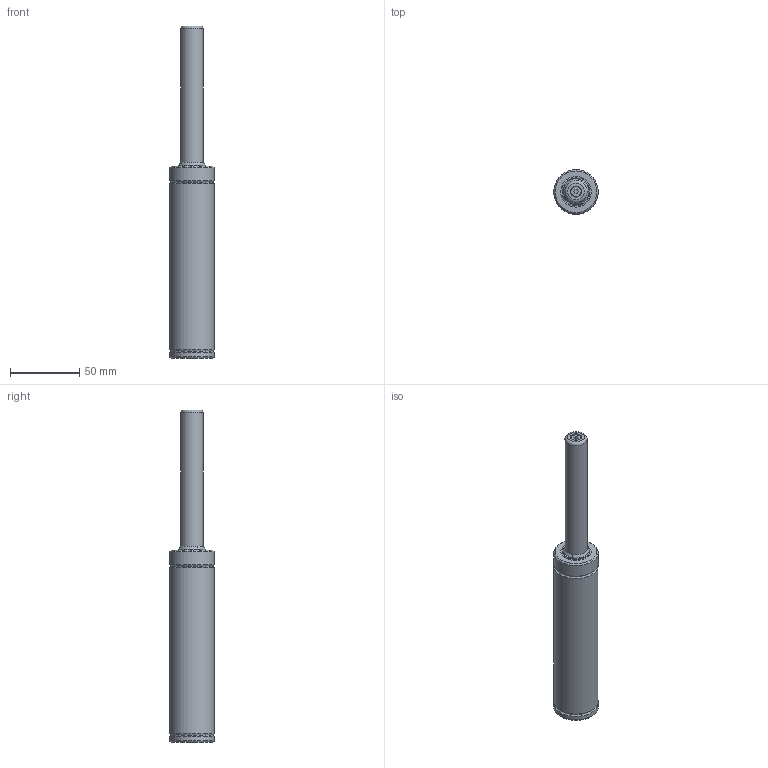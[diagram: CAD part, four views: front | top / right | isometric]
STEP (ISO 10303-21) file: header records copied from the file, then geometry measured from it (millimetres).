
FILE_DESCRIPTION(('FreeCAD Model'),'2;1');
FILE_NAME('Open CASCADE Shape Model','2024-11-13T08:20:19',('Author'),( ''),'Open CASCADE STEP processor 7.6','FreeCAD','Unknown');
FILE_SCHEMA(('AUTOMOTIVE_DESIGN { 1 0 10303 214 1 1 1 1 }'));
Length unit declared in the file: millimetre
Products named in the file (8): Unnamed; Part; C:\Documents and Settings\Luisg\Mis documentos\Dibujos catálogo 
2009\MICRO25x031; C:\Documents and Settings\Luisg\Mis documentos\Dibujos catálogo 
2009\MICRO25x030; Part002; Cut; Part003; Cut001
Assembly tree (7 placements, depth 3):
  Unnamed
    Part
      C:\Documents and Settings\Luisg\Mis documentos\Dibujos catálogo 
2009\MICRO25x031
      C:\Documents and Settings\Luisg\Mis documentos\Dibujos catálogo 
2009\MICRO25x030
    Part002
      Cut
    Part003
      Cut001
Bounding box: 32 x 32 x 239 mm (x, y, z)
Volume: 131276.4 mm3; surface area: 22566.4 mm2
Topology: 4 solids, 4 shells, 51 faces, 100 edges, 63 vertices
Faces by surface type: plane 21, cylinder 17, cone 7, torus 6
Full cylindrical faces by diameter (mm): 8 x1, 16 x1, 32 x3
Entity records: 1495 total; most frequent: DIRECTION 271, CARTESIAN_POINT 222, ORIENTED_EDGE 200, AXIS2_PLACEMENT_3D 112, EDGE_CURVE 100, VERTEX_POINT 63, FACE_BOUND 59, EDGE_LOOP 59
